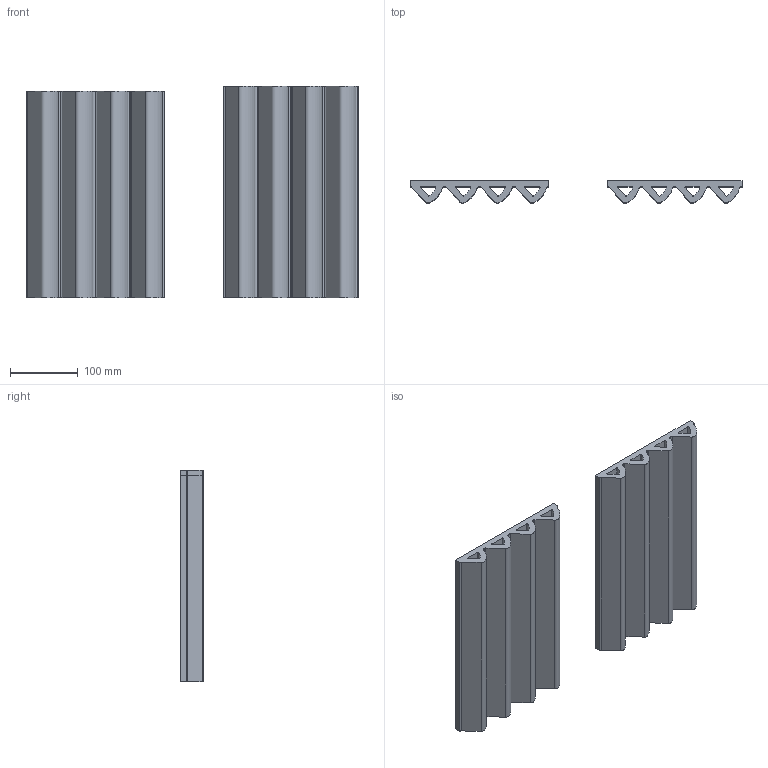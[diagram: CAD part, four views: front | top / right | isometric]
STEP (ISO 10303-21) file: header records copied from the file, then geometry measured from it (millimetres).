
FILE_DESCRIPTION(/* description */ (''),/* implementation_level */ '2;1');
FILE_NAME(/* name */ 'ALBERA_FERRES',/* time_stamp */ '2023-11-02T16:14:24+01:00',/* author */ (''),/* organization */ (''),/* preprocessor_version */ 'ST-DEVELOPER v16.5',/* originating_system */ 'Rhino 7.15',/* authorisation */ '');
FILE_SCHEMA (('AUTOMOTIVE_DESIGN'));
Length unit declared in the file: millimetre
Products named in the file (1): Document
Bounding box: 489.9 x 33.12 x 312 mm (x, y, z)
Volume: 2317184.1 mm3; surface area: 473381.2 mm2
Topology: 2 solids, 2 shells, 84 faces, 240 edges, 160 vertices
Faces by surface type: plane 42, bspline 42
Entity records: 2775 total; most frequent: CARTESIAN_POINT 1440, ORIENTED_EDGE 480, EDGE_CURVE 240, VERTEX_POINT 160, EDGE_LOOP 100, ADVANCED_FACE 84, FACE_OUTER_BOUND 84, DIRECTION 46
